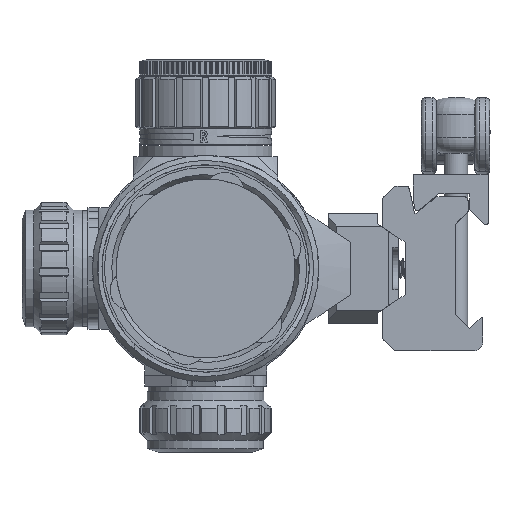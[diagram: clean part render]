
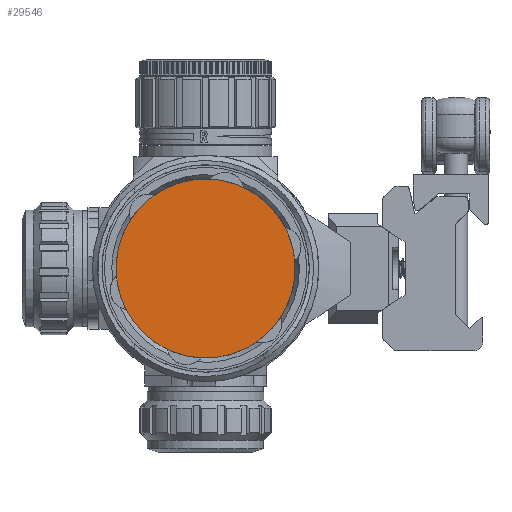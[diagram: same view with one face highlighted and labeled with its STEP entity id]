
A CAD part, left-side view. The second image highlights one B-rep face of the part: STEP entity #29546.
In plain terms, the highlighted planar face has unit normal (-1, 0, 0).
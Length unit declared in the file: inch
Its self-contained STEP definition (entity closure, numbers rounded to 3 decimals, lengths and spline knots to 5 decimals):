
#21255 = DIRECTION ( 'NONE',  ( 0., 0., 1. ) ) ;
#23046 = AXIS2_PLACEMENT_3D ( 'NONE', #51003, #30728, #21255 ) ;
#29546 = ADVANCED_FACE ( 'NONE', ( #82010 ), #123224, .F. ) ;
#30728 = DIRECTION ( 'NONE',  ( -1., 0., 0. ) ) ;
#34615 = CARTESIAN_POINT ( 'NONE',  ( -0.015, 0., 0.67 ) ) ;
#51003 = CARTESIAN_POINT ( 'NONE',  ( -0.015, 0., 0. ) ) ;
#71832 = CARTESIAN_POINT ( 'NONE',  ( -0.015, 0., -0.67 ) ) ;
#75622 = EDGE_LOOP ( 'NONE', ( #90491 ) ) ;
#81620 = EDGE_CURVE ( 'NONE', #88151, #88151, #115984, .T. ) ;
#82010 = FACE_OUTER_BOUND ( 'NONE', #75622, .T. ) ;
#86420 = AXIS2_PLACEMENT_3D ( 'NONE', #71832, #95974, #113110 ) ;
#88151 = VERTEX_POINT ( 'NONE', #34615 ) ;
#90491 = ORIENTED_EDGE ( 'NONE', *, *, #81620, .T. ) ;
#95974 = DIRECTION ( 'NONE',  ( 1., 0., 0. ) ) ;
#113110 = DIRECTION ( 'NONE',  ( 0., 0., -1. ) ) ;
#115984 = CIRCLE ( 'NONE', #23046, 0.67 ) ;
#123224 = PLANE ( 'NONE',  #86420 ) ;
